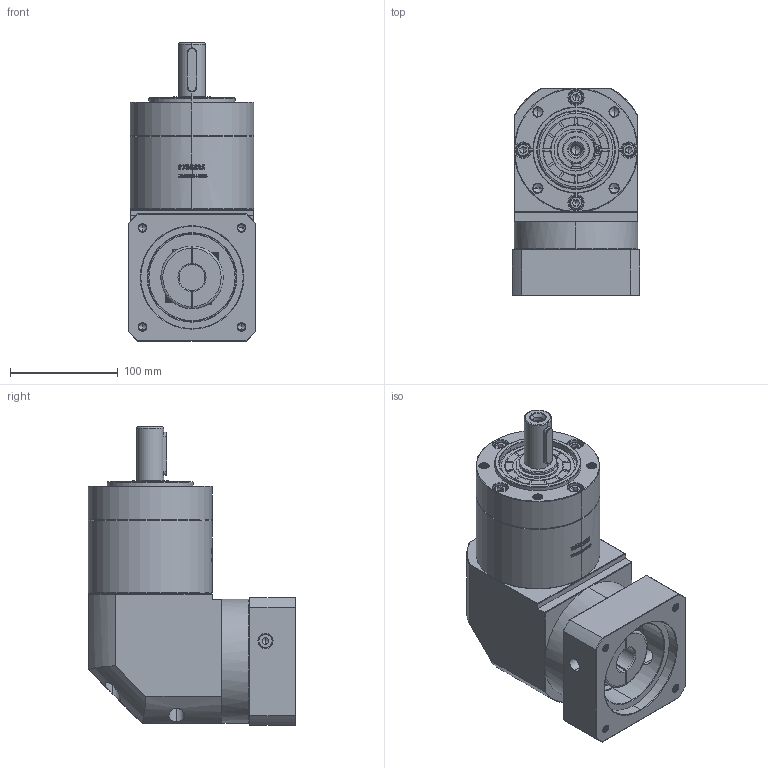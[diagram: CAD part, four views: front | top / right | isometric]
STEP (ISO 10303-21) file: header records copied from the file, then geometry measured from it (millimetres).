
FILE_DESCRIPTION (( 'STEP AP214' ), '1' );
FILE_NAME ('ZER120A-D25-L2-24-95-130-M8.step', '2023-03-14T08:17:24', ( '' ), ( '' ), 'SwSTEP 2.0', 'SolidWorks 2016', '' );
FILE_SCHEMA (( 'AUTOMOTIVE_DESIGN' ));
Length unit declared in the file: millimetre
Products named in the file (1): ZER120A-D25-L2-24-95-130-M8
Bounding box: 118 x 192.4 x 276.5 mm (x, y, z)
Volume: 3130727.3 mm3; surface area: 249066.1 mm2
Topology: 6 solids, 6 shells, 2954 faces, 7936 edges, 5126 vertices
Faces by surface type: plane 1463, bspline 618, cylinder 532, cone 333, torus 8
Entity records: 169318 total; most frequent: CARTESIAN_POINT 69497, ORIENTED_EDGE 15796, DIRECTION 11271, EDGE_CURVE 7898, VERTEX_POINT 5126, LINE 4803, VECTOR 4803, AXIS2_PLACEMENT_3D 3234
